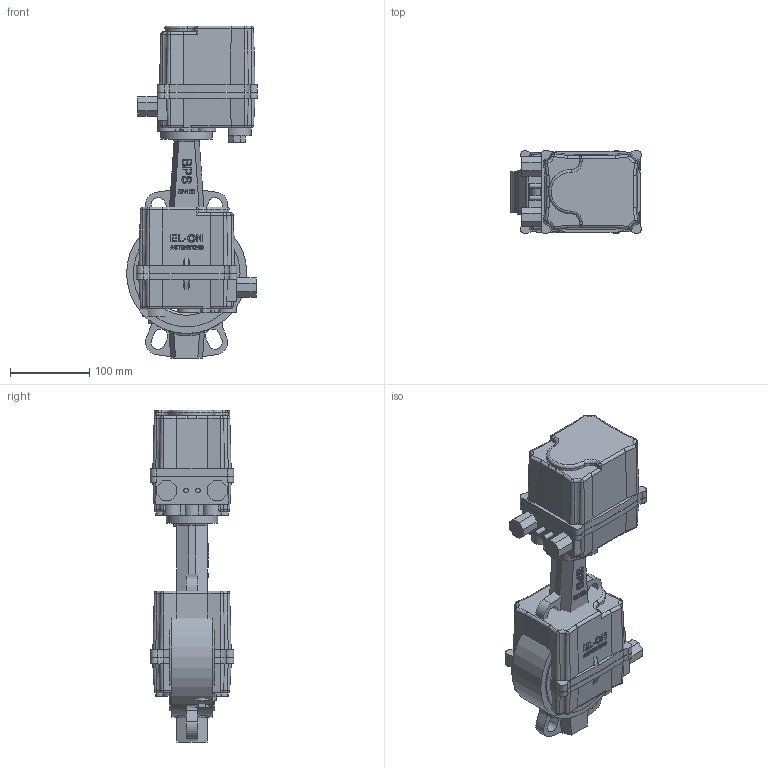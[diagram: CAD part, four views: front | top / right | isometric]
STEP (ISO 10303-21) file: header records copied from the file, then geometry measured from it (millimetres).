
FILE_DESCRIPTION( ( 'Unknown' ), '1' );
FILE_NAME( 'R:/ECCUA/ROOTSI BPS 3D vidinad/Poordklapid Wafer type/Butterfly valve(wafer) with electric actuator BPS/STEP formaat/BPS 2303100E butterfly valve DN100.stp', 'Unknown', ( 'Unknown' ), ( 'Unknown' ), 'PSStep 10.1', 'Unknown', ' ' );
FILE_SCHEMA( ( 'AUTOMOTIVE_DESIGN { 1 0 10303 214 1 1 1 1 }' ) );
Length unit declared in the file: millimetre
Products named in the file (4): Assem1; Butterfly valve wafer type DN100 BPS; BPS 8005058 electric actuator DN40-100
Bounding box: 165.5 x 105.49 x 420 mm (x, y, z)
Volume: 4683411.3 mm3; surface area: 465187.7 mm2
Topology: 6 solids, 6 shells, 1132 faces, 2956 edges, 1908 vertices
Faces by surface type: plane 398, extrusion 274, cylinder 266, cone 84, bspline 72, torus 38
Full cylindrical faces by diameter (mm): 4.134 x16, 4.917 x8, 6 x4, 6.647 x8, 7 x8, 65 x2, 100 x2, 135 x4, 152 x2
Entity records: 29578 total; most frequent: CARTESIAN_POINT 11898, ORIENTED_EDGE 2758, DIRECTION 2372, EDGE_CURVE 1379, VERTEX_POINT 933, VECTOR 870, AXIS2_PLACEMENT_3D 751, LINE 733
